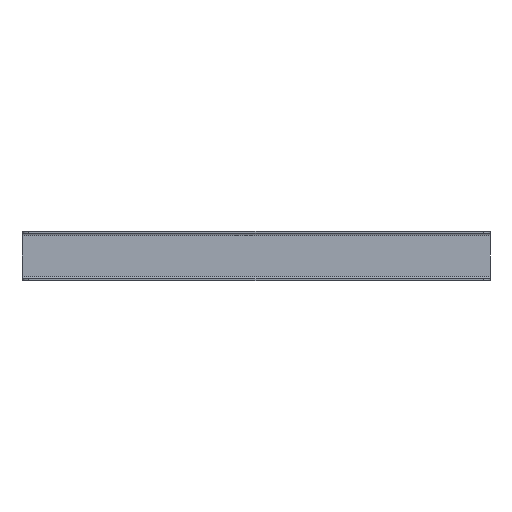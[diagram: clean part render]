
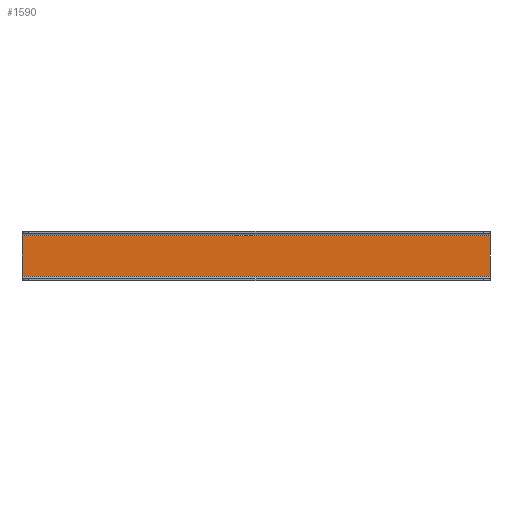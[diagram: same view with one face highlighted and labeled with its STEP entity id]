
A CAD part, front view. The second image highlights one B-rep face of the part: STEP entity #1590.
In plain terms, the highlighted planar face has unit normal (0, -1, 0).
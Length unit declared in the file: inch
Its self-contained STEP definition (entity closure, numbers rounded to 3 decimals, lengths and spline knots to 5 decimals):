
#3=DIRECTION('',(-1.,0.,0.));
#4=VECTOR('',#3,16.75);
#5=CARTESIAN_POINT('',(0.,1.672,-1.544));
#6=LINE('',#5,#4);
#21=DIRECTION('',(0.,0.,-1.));
#22=VECTOR('',#21,1.464);
#23=CARTESIAN_POINT('',(0.,1.672,-0.08));
#24=LINE('',#23,#22);
#33=DIRECTION('',(-1.,0.,0.));
#34=VECTOR('',#33,16.75);
#35=CARTESIAN_POINT('',(0.,1.672,-0.08));
#36=LINE('',#35,#34);
#37=DIRECTION('',(0.,0.,-1.));
#38=VECTOR('',#37,1.464);
#39=CARTESIAN_POINT('',(-16.75,1.672,-0.08));
#40=LINE('',#39,#38);
#1179=CARTESIAN_POINT('',(0.,1.672,-0.08));
#1180=CARTESIAN_POINT('',(0.,1.672,-1.544));
#1181=VERTEX_POINT('',#1179);
#1182=VERTEX_POINT('',#1180);
#1183=CARTESIAN_POINT('',(-16.75,1.672,-0.08));
#1184=CARTESIAN_POINT('',(-16.75,1.672,-1.544));
#1185=VERTEX_POINT('',#1183);
#1186=VERTEX_POINT('',#1184);
#1577=CARTESIAN_POINT('',(0.,1.672,-0.08));
#1578=DIRECTION('',(0.,-1.,0.));
#1579=DIRECTION('',(0.,0.,-1.));
#1580=AXIS2_PLACEMENT_3D('',#1577,#1578,#1579);
#1581=PLANE('',#1580);
#1582=ORIENTED_EDGE('',*,*,#1567,.T.);
#1583=ORIENTED_EDGE('',*,*,#1542,.T.);
#1585=ORIENTED_EDGE('',*,*,#1584,.F.);
#1587=ORIENTED_EDGE('',*,*,#1586,.F.);
#1588=EDGE_LOOP('',(#1582,#1583,#1585,#1587));
#1589=FACE_OUTER_BOUND('',#1588,.F.);
#1590=ADVANCED_FACE('',(#1589),#1581,.T.);
#1542=EDGE_CURVE('',#1182,#1186,#6,.T.);
#1567=EDGE_CURVE('',#1181,#1182,#24,.T.);
#1584=EDGE_CURVE('',#1185,#1186,#40,.T.);
#1586=EDGE_CURVE('',#1181,#1185,#36,.T.);
